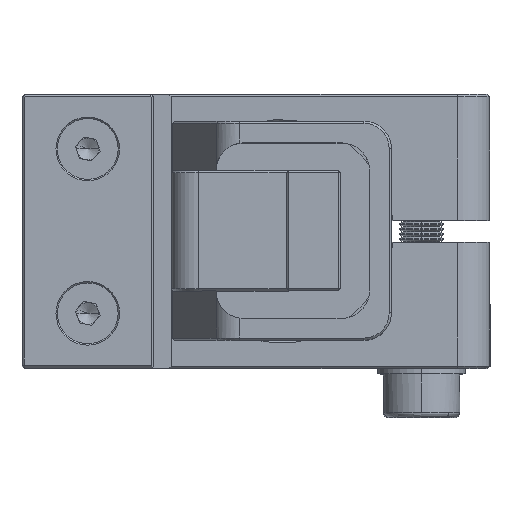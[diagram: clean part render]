
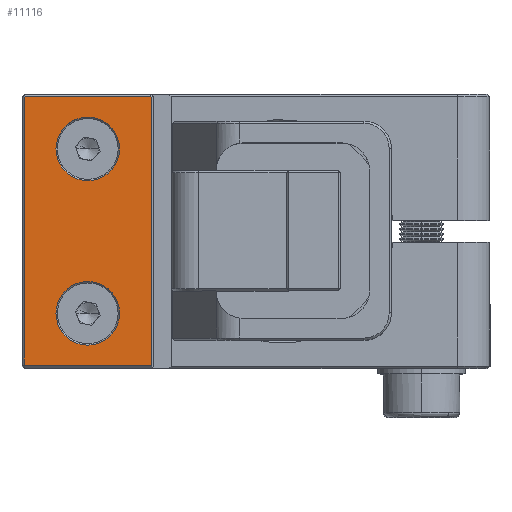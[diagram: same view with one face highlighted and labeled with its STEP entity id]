
A CAD part, top view. The second image highlights one B-rep face of the part: STEP entity #11116.
In plain terms, the highlighted planar face has unit normal (0, 0, 1).
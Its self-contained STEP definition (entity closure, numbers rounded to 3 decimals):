
#191 = LINE ( 'NONE', #7503, #5740 ) ;
#259 = CARTESIAN_POINT ( 'NONE',  ( -11.9, 12.217, -17.813 ) ) ;
#394 = CARTESIAN_POINT ( 'NONE',  ( -17.7, 7.5, -17.813 ) ) ;
#539 = ORIENTED_EDGE ( 'NONE', *, *, #5973, .T. ) ;
#597 = EDGE_LOOP ( 'NONE', ( #5941, #539 ) ) ;
#1095 = CIRCLE ( 'NONE', #12352, 2.9 ) ;
#1131 = EDGE_CURVE ( 'NONE', #9094, #13656, #11596, .T. ) ;
#1169 = ORIENTED_EDGE ( 'NONE', *, *, #15336, .T. ) ;
#1504 = CARTESIAN_POINT ( 'NONE',  ( -11.9, -12.3, -17.813 ) ) ;
#1623 = AXIS2_PLACEMENT_3D ( 'NONE', #13826, #3739, #15542 ) ;
#1668 = LINE ( 'NONE', #259, #19107 ) ;
#1906 = EDGE_CURVE ( 'NONE', #13499, #9094, #14492, .T. ) ;
#2107 = DIRECTION ( 'NONE',  ( 1., 0., 0. ) ) ;
#2374 = VECTOR ( 'NONE', #7801, 1000. ) ;
#2419 = DIRECTION ( 'NONE',  ( -1., 0., 0. ) ) ;
#2429 = AXIS2_PLACEMENT_3D ( 'NONE', #394, #12201, #2107 ) ;
#2587 = CARTESIAN_POINT ( 'NONE',  ( -14.8, 7.5, -17.813 ) ) ;
#2742 = EDGE_CURVE ( 'NONE', #15577, #8874, #15511, .T. ) ;
#3671 = DIRECTION ( 'NONE',  ( 0.707, 0.707, 0. ) ) ;
#3739 = DIRECTION ( 'NONE',  ( 0., 0., -1. ) ) ;
#4370 = VERTEX_POINT ( 'NONE', #18964 ) ;
#4398 = LINE ( 'NONE', #16364, #7813 ) ;
#4473 = DIRECTION ( 'NONE',  ( 1., 0., 0. ) ) ;
#4591 = DIRECTION ( 'NONE',  ( 0., 1., 0. ) ) ;
#5740 = VECTOR ( 'NONE', #2419, 1000. ) ;
#5941 = ORIENTED_EDGE ( 'NONE', *, *, #17161, .T. ) ;
#5973 = EDGE_CURVE ( 'NONE', #7438, #14210, #1095, .T. ) ;
#6158 = FACE_BOUND ( 'NONE', #21294, .T. ) ;
#6248 = VERTEX_POINT ( 'NONE', #1504 ) ;
#6364 = VECTOR ( 'NONE', #4591, 1000. ) ;
#6662 = ORIENTED_EDGE ( 'NONE', *, *, #2742, .T. ) ;
#6666 = EDGE_CURVE ( 'NONE', #4370, #6248, #12303, .T. ) ;
#6797 = ORIENTED_EDGE ( 'NONE', *, *, #1906, .F. ) ;
#6914 = EDGE_CURVE ( 'NONE', #8874, #15577, #21566, .T. ) ;
#7000 = CARTESIAN_POINT ( 'NONE',  ( -17.7, -7.5, -17.813 ) ) ;
#7039 = CARTESIAN_POINT ( 'NONE',  ( -23.5, 12.217, -17.813 ) ) ;
#7308 = CARTESIAN_POINT ( 'NONE',  ( -14.8, -7.5, -17.813 ) ) ;
#7339 = CIRCLE ( 'NONE', #18953, 2.9 ) ;
#7438 = VERTEX_POINT ( 'NONE', #10220 ) ;
#7503 = CARTESIAN_POINT ( 'NONE',  ( -17.7, -12.3, -17.813 ) ) ;
#7774 = CARTESIAN_POINT ( 'NONE',  ( -17.7, 0., -17.813 ) ) ;
#7801 = DIRECTION ( 'NONE',  ( 1., 0., 0. ) ) ;
#7813 = VECTOR ( 'NONE', #21441, 1000. ) ;
#7831 = VECTOR ( 'NONE', #14473, 1000. ) ;
#8701 = DIRECTION ( 'NONE',  ( 1., 0., 0. ) ) ;
#8730 = ORIENTED_EDGE ( 'NONE', *, *, #13838, .F. ) ;
#8874 = VERTEX_POINT ( 'NONE', #13456 ) ;
#8923 = DIRECTION ( 'NONE',  ( 0., 0., -1. ) ) ;
#9008 = CARTESIAN_POINT ( 'NONE',  ( -23.417, 12.3, -17.813 ) ) ;
#9094 = VERTEX_POINT ( 'NONE', #9008 ) ;
#9262 = EDGE_CURVE ( 'NONE', #11167, #13499, #19885, .T. ) ;
#9617 = CARTESIAN_POINT ( 'NONE',  ( -23.5, -12.217, -17.813 ) ) ;
#10142 = FACE_BOUND ( 'NONE', #597, .T. ) ;
#10220 = CARTESIAN_POINT ( 'NONE',  ( -20.6, -7.5, -17.813 ) ) ;
#10536 = VECTOR ( 'NONE', #3671, 1000. ) ;
#11116 = ADVANCED_FACE ( 'NONE', ( #14620, #6158, #10142 ), #11174, .T. ) ;
#11167 = VERTEX_POINT ( 'NONE', #9617 ) ;
#11174 = PLANE ( 'NONE',  #20684 ) ;
#11596 = LINE ( 'NONE', #19622, #2374 ) ;
#12125 = ORIENTED_EDGE ( 'NONE', *, *, #21228, .F. ) ;
#12160 = VERTEX_POINT ( 'NONE', #15623 ) ;
#12201 = DIRECTION ( 'NONE',  ( 0., 0., -1. ) ) ;
#12303 = LINE ( 'NONE', #12756, #7831 ) ;
#12311 = ORIENTED_EDGE ( 'NONE', *, *, #6666, .F. ) ;
#12352 = AXIS2_PLACEMENT_3D ( 'NONE', #7000, #18828, #8701 ) ;
#12694 = CARTESIAN_POINT ( 'NONE',  ( -11.983, 12.3, -17.813 ) ) ;
#12756 = CARTESIAN_POINT ( 'NONE',  ( -11.9, 0., -17.813 ) ) ;
#13456 = CARTESIAN_POINT ( 'NONE',  ( -20.6, 7.5, -17.813 ) ) ;
#13499 = VERTEX_POINT ( 'NONE', #13959 ) ;
#13656 = VERTEX_POINT ( 'NONE', #12694 ) ;
#13826 = CARTESIAN_POINT ( 'NONE',  ( -17.7, 7.5, -17.813 ) ) ;
#13838 = EDGE_CURVE ( 'NONE', #12160, #11167, #4398, .T. ) ;
#13959 = CARTESIAN_POINT ( 'NONE',  ( -23.5, 12.217, -17.813 ) ) ;
#14133 = ORIENTED_EDGE ( 'NONE', *, *, #9262, .F. ) ;
#14210 = VERTEX_POINT ( 'NONE', #7308 ) ;
#14355 = ORIENTED_EDGE ( 'NONE', *, *, #1131, .F. ) ;
#14473 = DIRECTION ( 'NONE',  ( 0., -1., 0. ) ) ;
#14492 = LINE ( 'NONE', #7039, #10536 ) ;
#14561 = DIRECTION ( 'NONE',  ( 0., 0., 1. ) ) ;
#14620 = FACE_OUTER_BOUND ( 'NONE', #17008, .T. ) ;
#15336 = EDGE_CURVE ( 'NONE', #4370, #13656, #1668, .T. ) ;
#15511 = CIRCLE ( 'NONE', #2429, 2.9 ) ;
#15542 = DIRECTION ( 'NONE',  ( 1., 0., 0. ) ) ;
#15577 = VERTEX_POINT ( 'NONE', #2587 ) ;
#15623 = CARTESIAN_POINT ( 'NONE',  ( -23.417, -12.3, -17.813 ) ) ;
#16364 = CARTESIAN_POINT ( 'NONE',  ( -23.417, -12.3, -17.813 ) ) ;
#16411 = CARTESIAN_POINT ( 'NONE',  ( -23.5, 0., -17.813 ) ) ;
#17008 = EDGE_LOOP ( 'NONE', ( #6797, #14133, #8730, #12125, #12311, #1169, #14355 ) ) ;
#17161 = EDGE_CURVE ( 'NONE', #14210, #7438, #7339, .T. ) ;
#17193 = DIRECTION ( 'NONE',  ( -0.707, 0.707, 0. ) ) ;
#18828 = DIRECTION ( 'NONE',  ( 0., 0., -1. ) ) ;
#18953 = AXIS2_PLACEMENT_3D ( 'NONE', #19048, #8923, #20738 ) ;
#18964 = CARTESIAN_POINT ( 'NONE',  ( -11.9, 12.217, -17.813 ) ) ;
#19048 = CARTESIAN_POINT ( 'NONE',  ( -17.7, -7.5, -17.813 ) ) ;
#19107 = VECTOR ( 'NONE', #17193, 1000. ) ;
#19277 = ORIENTED_EDGE ( 'NONE', *, *, #6914, .T. ) ;
#19622 = CARTESIAN_POINT ( 'NONE',  ( -17.7, 12.3, -17.813 ) ) ;
#19885 = LINE ( 'NONE', #16411, #6364 ) ;
#20684 = AXIS2_PLACEMENT_3D ( 'NONE', #7774, #14561, #4473 ) ;
#20738 = DIRECTION ( 'NONE',  ( 1., 0., 0. ) ) ;
#21228 = EDGE_CURVE ( 'NONE', #6248, #12160, #191, .T. ) ;
#21294 = EDGE_LOOP ( 'NONE', ( #6662, #19277 ) ) ;
#21441 = DIRECTION ( 'NONE',  ( -0.707, 0.707, 0. ) ) ;
#21566 = CIRCLE ( 'NONE', #1623, 2.9 ) ;
